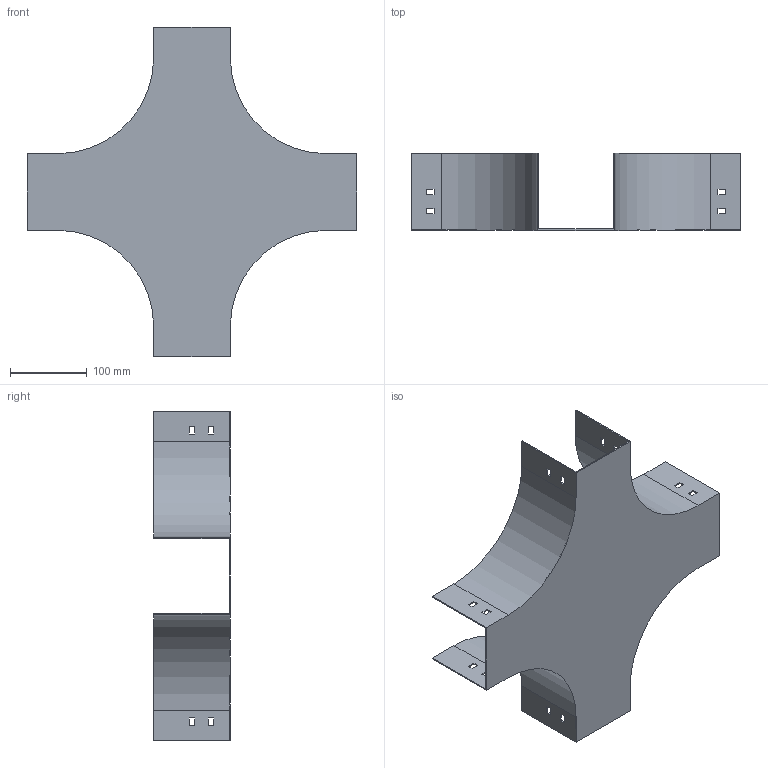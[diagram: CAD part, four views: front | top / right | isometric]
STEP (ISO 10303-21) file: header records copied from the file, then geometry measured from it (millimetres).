
FILE_DESCRIPTION (( 'STEP AP214' ), '1' );
FILE_NAME ('PC_101.step', '2025-07-16T09:21:41', ( '' ), ( '' ), 'SwSTEP 2.0', 'SolidWorks 2023', '' );
FILE_SCHEMA (( 'AUTOMOTIVE_DESIGN' ));
Length unit declared in the file: millimetre
Products named in the file (1): PC_101
Bounding box: 430 x 100 x 430 mm (x, y, z)
Volume: 296457.8 mm3; surface area: 399533.1 mm2
Topology: 1 solids, 1 shells, 98 faces, 288 edges, 192 vertices
Faces by surface type: plane 90, cylinder 8
Entity records: 3295 total; most frequent: CARTESIAN_POINT 579, ORIENTED_EDGE 576, DIRECTION 502, EDGE_CURVE 288, VECTOR 272, LINE 272, VERTEX_POINT 192, EDGE_LOOP 130
